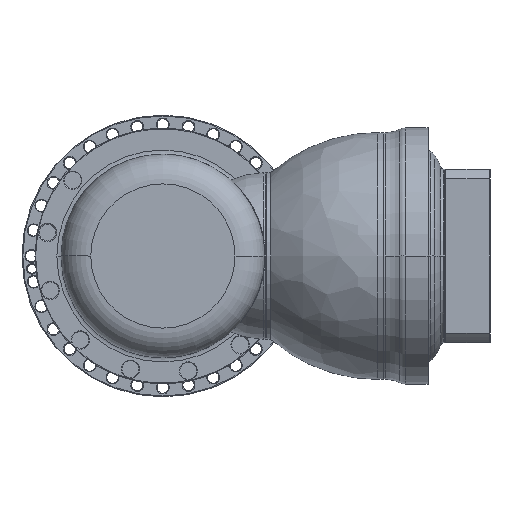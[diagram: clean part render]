
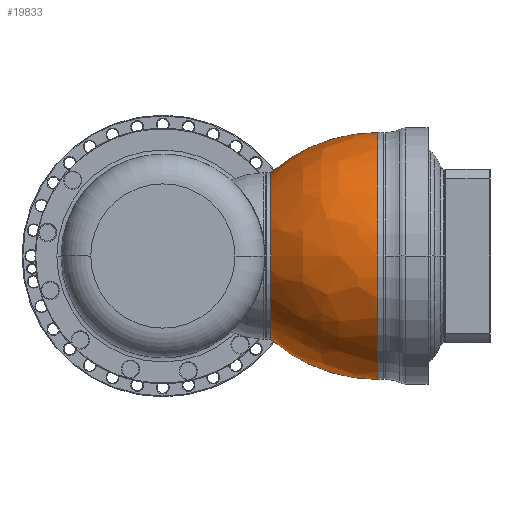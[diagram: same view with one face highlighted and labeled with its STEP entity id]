
A CAD part, left-side view. The second image highlights one B-rep face of the part: STEP entity #19833.
In plain terms, the highlighted free-form (B-spline) face has degree [3, 3] with [7, 4] control points.
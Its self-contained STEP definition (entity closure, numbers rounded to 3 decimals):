
#19539=CARTESIAN_POINT('',(-7.,0.,0.));
#19540=DIRECTION('',(1.,0.,0.));
#19541=DIRECTION('',(0.,-1.,0.));
#19542=AXIS2_PLACEMENT_3D('',#19539,#19540,#19541);
#19563=CARTESIAN_POINT('',(-7.,-45.366,0.));
#19564=DIRECTION('',(0.,0.,-1.));
#19565=DIRECTION('',(-0.659,0.752,0.));
#19566=AXIS2_PLACEMENT_3D('',#19563,#19564,#19565);
#19568=CARTESIAN_POINT('',(-7.,45.366,0.));
#19569=DIRECTION('',(0.,0.,1.));
#19570=DIRECTION('',(-0.659,-0.752,0.));
#19571=AXIS2_PLACEMENT_3D('',#19568,#19569,#19570);
#19583=CARTESIAN_POINT('',(-132.859,0.,0.));
#19584=DIRECTION('',(-1.,0.,0.));
#19585=DIRECTION('',(0.,1.,0.));
#19586=AXIS2_PLACEMENT_3D('',#19583,#19584,#19585);
#19634=CARTESIAN_POINT('',(-7.,145.5,0.));
#19635=CARTESIAN_POINT('',(-7.,-145.5,0.));
#19636=VERTEX_POINT('',#19634);
#19637=VERTEX_POINT('',#19635);
#19638=CARTESIAN_POINT('',(-132.859,98.124,0.));
#19639=CARTESIAN_POINT('',(-132.859,-98.124,
0.));
#19640=VERTEX_POINT('',#19638);
#19641=VERTEX_POINT('',#19639);
#19798=CARTESIAN_POINT('',(-4.252,145.193,
9.135));
#19799=CARTESIAN_POINT('',(-53.037,145.894,
9.179));
#19800=CARTESIAN_POINT('',(-98.699,128.74,
8.1));
#19801=CARTESIAN_POINT('',(-134.912,96.107,
6.047));
#19802=CARTESIAN_POINT('',(-4.252,150.815,
-80.217));
#19803=CARTESIAN_POINT('',(-53.037,151.543,
-80.604));
#19804=CARTESIAN_POINT('',(-98.699,133.724,
-71.127));
#19805=CARTESIAN_POINT('',(-134.912,99.828,
-53.097));
#19806=CARTESIAN_POINT('',(-4.252,89.528,
-145.48));
#19807=CARTESIAN_POINT('',(-53.037,89.961,
-146.183));
#19808=CARTESIAN_POINT('',(-98.699,79.383,
-128.994));
#19809=CARTESIAN_POINT('',(-134.912,59.261,
-96.297));
#19810=CARTESIAN_POINT('',(-4.252,0.,-145.48));
#19811=CARTESIAN_POINT('',(-53.037,0.,
-146.183));
#19812=CARTESIAN_POINT('',(-98.699,0.,-128.994));
#19813=CARTESIAN_POINT('',(-134.912,0.,-96.297));
#19814=CARTESIAN_POINT('',(-4.252,-89.528,
-145.48));
#19815=CARTESIAN_POINT('',(-53.037,-89.961,
-146.183));
#19816=CARTESIAN_POINT('',(-98.699,-79.383,
-128.994));
#19817=CARTESIAN_POINT('',(-134.912,-59.261,
-96.297));
#19818=CARTESIAN_POINT('',(-4.252,-150.815,
-80.217));
#19819=CARTESIAN_POINT('',(-53.037,-151.543,
-80.604));
#19820=CARTESIAN_POINT('',(-98.699,-133.724,
-71.127));
#19821=CARTESIAN_POINT('',(-134.912,-99.828,
-53.097));
#19822=CARTESIAN_POINT('',(-4.252,-145.193,
9.135));
#19823=CARTESIAN_POINT('',(-53.037,-145.894,
9.179));
#19824=CARTESIAN_POINT('',(-98.699,-128.74,
8.1));
#19825=CARTESIAN_POINT('',(-134.912,-96.107,
6.047));
#19826=(BOUNDED_SURFACE()B_SPLINE_SURFACE(3,3,((#19798,#19799,#19800,#19801),(
#19802,#19803,#19804,#19805),(#19806,#19807,#19808,#19809),(#19810,#19811,
#19812,#19813),(#19814,#19815,#19816,#19817),(#19818,#19819,#19820,#19821),(
#19822,#19823,#19824,#19825)),.UNSPECIFIED.,.F.,.F.,.F.)B_SPLINE_SURFACE_WITH_KNOTS((4,3,4),(4,4),(0.,1.,2.),(0.,1.),.UNSPECIFIED.)GEOMETRIC_REPRESENTATION_ITEM()RATIONAL_B_SPLINE_SURFACE(((1.23,1.173,
1.173,1.23),(0.971,0.926,
0.926,0.971),(0.971,0.926,
0.926,0.971),(1.23,1.173,
1.173,1.23),(0.971,0.926,
0.926,0.971),(0.971,0.926,
0.926,0.971),(1.23,1.173,
1.173,1.23)))REPRESENTATION_ITEM('')SURFACE());
#19827=ORIENTED_EDGE('',*,*,#19789,.T.);
#19828=ORIENTED_EDGE('',*,*,#19764,.T.);
#19829=ORIENTED_EDGE('',*,*,#19710,.T.);
#19830=ORIENTED_EDGE('',*,*,#19761,.F.);
#19831=EDGE_LOOP('',(#19827,#19828,#19829,#19830));
#19832=FACE_OUTER_BOUND('',#19831,.F.);
#19833=ADVANCED_FACE('',(#19832),#19826,.T.);
#19543=CIRCLE('',#19542,145.5);
#19567=CIRCLE('',#19566,190.866);
#19572=CIRCLE('',#19571,190.866);
#19587=CIRCLE('',#19586,98.124);
#19710=EDGE_CURVE('',#19637,#19636,#19543,.T.);
#19761=EDGE_CURVE('',#19640,#19636,#19567,.T.);
#19764=EDGE_CURVE('',#19641,#19637,#19572,.T.);
#19789=EDGE_CURVE('',#19640,#19641,#19587,.T.);
